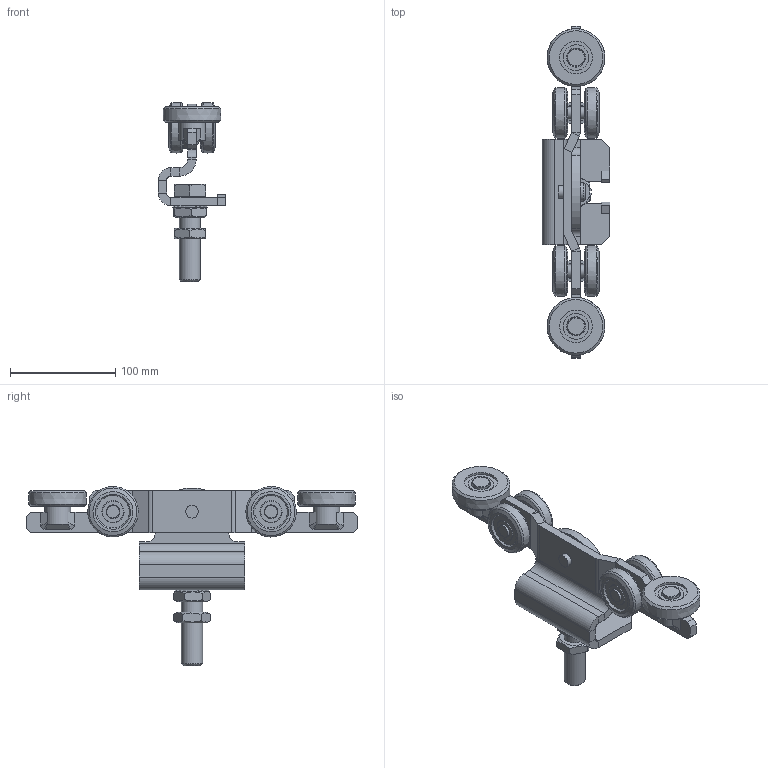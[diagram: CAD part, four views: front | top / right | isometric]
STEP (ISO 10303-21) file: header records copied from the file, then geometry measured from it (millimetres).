
FILE_DESCRIPTION(/* description */ ('Aufhaengehaken zu Doppelrolle Nr.3'),/* implementation_level */ '2;1');
FILE_NAME(/* name */ 'Q:\sge-ma\Produktmanagement-STB\STB\Workspace\stp\010337914.stp',/* time_stamp */ '2015-03-10T13:38:13+01:00',/* author */ ('avschreier'),/* organization */ (''),/* preprocessor_version */ 'ST-DEVELOPER v15.6',/* originating_system */ 'Autodesk Inventor 2015',/* authorisation */ '');
FILE_SCHEMA (('CONFIG_CONTROL_DESIGN'));
Length unit declared in the file: millimetre
Products named in the file (16): 337000226; 336300022_Schweißnähte; 000301991; 337000283; DIN_625-6203_ZZ_en; 000302016; 000302014; 336300022; 000302240; 000303237; 000304012; DIN_6798-A_21_en; DIN_EN_ISO_4035-M20_en; DIN_EN_ISO_4017-M20x80_en; 336290030; 010337914
Bounding box: 64 x 315 x 170 mm (x, y, z)
Volume: 401393.1 mm3; surface area: 143067.9 mm2
Topology: 27 solids, 29 shells, 728 faces, 1829 edges, 1164 vertices
Faces by surface type: plane 365, cylinder 176, cone 75, bspline 54, torus 44, sphere 14
Full cylindrical faces by diameter (mm): 12 x8, 12.1 x1, 14 x2, 16.9 x2, 17 x2, 17.294 x2, 18 x1, 18.647 x1, 20 x1, 21 x1, 24.36 x8, 25 x2, 27.7 x1, 31 x2, 32.64 x8, 40 x4
Entity records: 16555 total; most frequent: CARTESIAN_POINT 5076, DIRECTION 2340, ORIENTED_EDGE 2262, EDGE_CURVE 1131, AXIS2_PLACEMENT_3D 877, VERTEX_POINT 749, LINE 586, VECTOR 586
